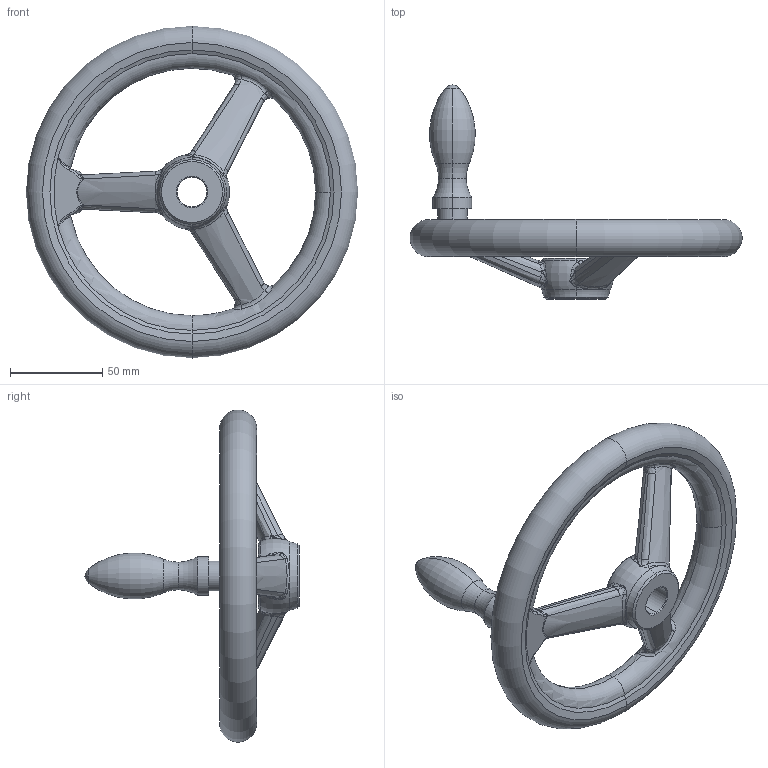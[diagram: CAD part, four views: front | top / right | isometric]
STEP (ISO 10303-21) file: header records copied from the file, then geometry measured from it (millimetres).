
FILE_DESCRIPTION (( 'STEP AP203' ), '1' );
FILE_NAME ('din950_d4_180x16.step', '2010-03-23T10:14:47', ( '_' ), ( '_' ), 'SwSTEP 2.0', 'SolidWorks 2010', '' );
FILE_SCHEMA (( 'CONFIG_CONTROL_DESIGN' ));
Length unit declared in the file: millimetre
Products named in the file (1): din950_d4_180x16
Bounding box: 179.93 x 116 x 179.93 mm (x, y, z)
Volume: 249858.6 mm3; surface area: 50585.9 mm2
Topology: 1 solids, 1 shells, 199 faces, 490 edges, 262 vertices
Faces by surface type: bspline 130, torus 27, cone 17, plane 12, cylinder 11, sphere 2
Entity records: 26619 total; most frequent: CARTESIAN_POINT 22794, ORIENTED_EDGE 928, DIRECTION 543, EDGE_CURVE 464, VERTEX_POINT 262, AXIS2_PLACEMENT_3D 258, B_SPLINE_CURVE_WITH_KNOTS 245, EDGE_LOOP 202
